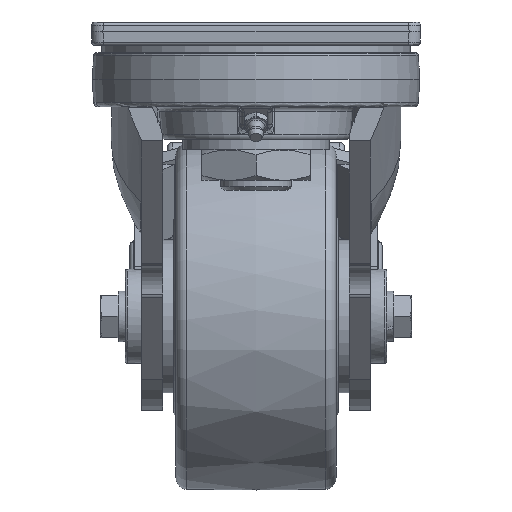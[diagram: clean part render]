
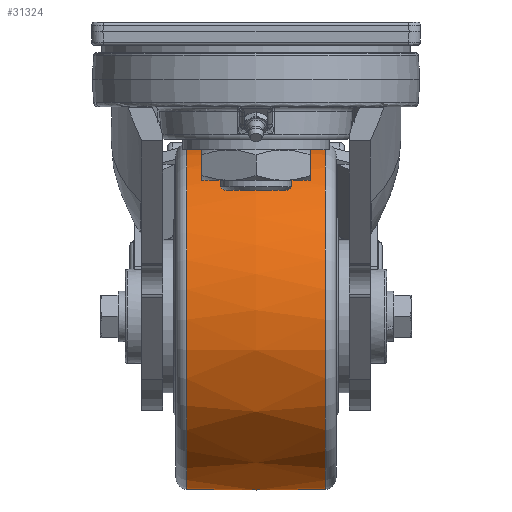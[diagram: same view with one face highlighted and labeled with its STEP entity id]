
A CAD part, left-side view. The second image highlights one B-rep face of the part: STEP entity #31324.
In plain terms, the highlighted free-form (B-spline) face has degree [2, 2] with [3, 9] control points.
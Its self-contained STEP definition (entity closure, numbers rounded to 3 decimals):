
#27=(
BOUNDED_SURFACE()
B_SPLINE_SURFACE(2,2,((#50725,#50726,#50727,#50728,#50729,#50730,#50731,
#50732,#50733),(#50734,#50735,#50736,#50737,#50738,#50739,#50740,#50741,
#50742),(#50743,#50744,#50745,#50746,#50747,#50748,#50749,#50750,#50751)),
 .UNSPECIFIED.,.F.,.T.,.F.)
B_SPLINE_SURFACE_WITH_KNOTS((3,3),(3,2,2,2,3),(-0.098,0.098),
(-3.142,-1.571,0.,1.571,3.142),
 .UNSPECIFIED.)
GEOMETRIC_REPRESENTATION_ITEM()
RATIONAL_B_SPLINE_SURFACE(((1.,0.707,1.,0.707,1.,
0.707,1.,0.707,1.),(0.995,0.704,
0.995,0.704,0.995,0.704,
0.995,0.704,0.995),(1.,0.707,
1.,0.707,1.,0.707,1.,0.707,1.)))
REPRESENTATION_ITEM('')
SURFACE()
);
#8647=FACE_OUTER_BOUND('',#10475,.T.);
#10475=EDGE_LOOP('',(#24018,#24019,#24020,#24021,#24022,#24023,#24024,#24025));
#12055=CIRCLE('',#33387,73.547);
#12056=CIRCLE('',#33388,73.547);
#12057=CIRCLE('',#33389,73.547);
#12058=CIRCLE('',#33390,300.);
#12059=CIRCLE('',#33391,73.547);
#12060=CIRCLE('',#33392,73.547);
#12061=CIRCLE('',#33393,73.547);
#13524=VERTEX_POINT('',#50718);
#13525=VERTEX_POINT('',#50720);
#13526=VERTEX_POINT('',#50722);
#13527=VERTEX_POINT('',#50752);
#13528=VERTEX_POINT('',#50754);
#13529=VERTEX_POINT('',#50756);
#17348=EDGE_CURVE('',#13524,#13525,#12055,.T.);
#17349=EDGE_CURVE('',#13525,#13526,#12056,.T.);
#17350=EDGE_CURVE('',#13526,#13524,#12057,.T.);
#17351=EDGE_CURVE('',#13524,#13527,#12058,.T.);
#17352=EDGE_CURVE('',#13527,#13528,#12059,.T.);
#17353=EDGE_CURVE('',#13528,#13529,#12060,.T.);
#17354=EDGE_CURVE('',#13529,#13527,#12061,.T.);
#24018=ORIENTED_EDGE('',*,*,#17349,.F.);
#24019=ORIENTED_EDGE('',*,*,#17348,.F.);
#24020=ORIENTED_EDGE('',*,*,#17351,.T.);
#24021=ORIENTED_EDGE('',*,*,#17352,.T.);
#24022=ORIENTED_EDGE('',*,*,#17353,.T.);
#24023=ORIENTED_EDGE('',*,*,#17354,.T.);
#24024=ORIENTED_EDGE('',*,*,#17351,.F.);
#24025=ORIENTED_EDGE('',*,*,#17350,.F.);
#31324=ADVANCED_FACE('',(#8647),#27,.F.);
#33387=AXIS2_PLACEMENT_3D('',#50721,#37264,#37265);
#33388=AXIS2_PLACEMENT_3D('',#50723,#37266,#37267);
#33389=AXIS2_PLACEMENT_3D('',#50724,#37268,#37269);
#33390=AXIS2_PLACEMENT_3D('',#50753,#37270,#37271);
#33391=AXIS2_PLACEMENT_3D('',#50755,#37272,#37273);
#33392=AXIS2_PLACEMENT_3D('',#50757,#37274,#37275);
#33393=AXIS2_PLACEMENT_3D('',#50758,#37276,#37277);
#37264=DIRECTION('center_axis',(0.,1.,0.));
#37265=DIRECTION('ref_axis',(0.192,0.,-0.981));
#37266=DIRECTION('center_axis',(0.,1.,0.));
#37267=DIRECTION('ref_axis',(0.192,0.,-0.981));
#37268=DIRECTION('center_axis',(0.,1.,0.));
#37269=DIRECTION('ref_axis',(0.192,0.,-0.981));
#37270=DIRECTION('center_axis',(0.981,0.,
0.192));
#37271=DIRECTION('ref_axis',(-0.192,0.,0.981));
#37272=DIRECTION('center_axis',(0.,1.,0.));
#37273=DIRECTION('ref_axis',(0.192,0.,-0.981));
#37274=DIRECTION('center_axis',(0.,1.,0.));
#37275=DIRECTION('ref_axis',(0.192,0.,-0.981));
#37276=DIRECTION('center_axis',(0.,1.,0.));
#37277=DIRECTION('ref_axis',(0.192,0.,-0.981));
#50718=CARTESIAN_POINT('',(65.851,29.492,-39.827));
#50720=CARTESIAN_POINT('',(152.173,29.492,-97.851));
#50721=CARTESIAN_POINT('Origin',(80.,29.492,-112.));
#50722=CARTESIAN_POINT('',(7.827,29.492,-126.149));
#50723=CARTESIAN_POINT('Origin',(80.,29.492,-112.));
#50724=CARTESIAN_POINT('Origin',(80.,29.492,-112.));
#50725=CARTESIAN_POINT('Ctrl Pts',(65.851,-29.492,-39.827));
#50726=CARTESIAN_POINT('Ctrl Pts',(138.024,-29.492,-25.678));
#50727=CARTESIAN_POINT('Ctrl Pts',(152.173,-29.492,-97.851));
#50728=CARTESIAN_POINT('Ctrl Pts',(166.322,-29.492,-170.024));
#50729=CARTESIAN_POINT('Ctrl Pts',(94.149,-29.492,-184.173));
#50730=CARTESIAN_POINT('Ctrl Pts',(21.976,-29.492,-198.322));
#50731=CARTESIAN_POINT('Ctrl Pts',(7.827,-29.492,-126.149));
#50732=CARTESIAN_POINT('Ctrl Pts',(-6.322,-29.492,
-53.976));
#50733=CARTESIAN_POINT('Ctrl Pts',(65.851,-29.492,-39.827));
#50734=CARTESIAN_POINT('Ctrl Pts',(65.29,0.,
-36.968));
#50735=CARTESIAN_POINT('Ctrl Pts',(140.322,0.,
-22.259));
#50736=CARTESIAN_POINT('Ctrl Pts',(155.032,0.,
-97.291));
#50737=CARTESIAN_POINT('Ctrl Pts',(169.742,0.,
-172.322));
#50738=CARTESIAN_POINT('Ctrl Pts',(94.71,0.,
-187.032));
#50739=CARTESIAN_POINT('Ctrl Pts',(19.678,0.,
-201.742));
#50740=CARTESIAN_POINT('Ctrl Pts',(4.968,0.,
-126.71));
#50741=CARTESIAN_POINT('Ctrl Pts',(-9.742,0.,
-51.678));
#50742=CARTESIAN_POINT('Ctrl Pts',(65.29,0.,
-36.968));
#50743=CARTESIAN_POINT('Ctrl Pts',(65.851,29.492,-39.827));
#50744=CARTESIAN_POINT('Ctrl Pts',(138.024,29.492,-25.678));
#50745=CARTESIAN_POINT('Ctrl Pts',(152.173,29.492,-97.851));
#50746=CARTESIAN_POINT('Ctrl Pts',(166.322,29.492,-170.024));
#50747=CARTESIAN_POINT('Ctrl Pts',(94.149,29.492,-184.173));
#50748=CARTESIAN_POINT('Ctrl Pts',(21.976,29.492,-198.322));
#50749=CARTESIAN_POINT('Ctrl Pts',(7.827,29.492,-126.149));
#50750=CARTESIAN_POINT('Ctrl Pts',(-6.322,29.492,-53.976));
#50751=CARTESIAN_POINT('Ctrl Pts',(65.851,29.492,-39.827));
#50752=CARTESIAN_POINT('',(65.851,-29.492,-39.827));
#50753=CARTESIAN_POINT('Origin',(123.286,0.,
-332.797));
#50754=CARTESIAN_POINT('',(152.173,-29.492,-97.851));
#50755=CARTESIAN_POINT('Origin',(80.,-29.492,-112.));
#50756=CARTESIAN_POINT('',(7.827,-29.492,-126.149));
#50757=CARTESIAN_POINT('Origin',(80.,-29.492,-112.));
#50758=CARTESIAN_POINT('Origin',(80.,-29.492,-112.));
